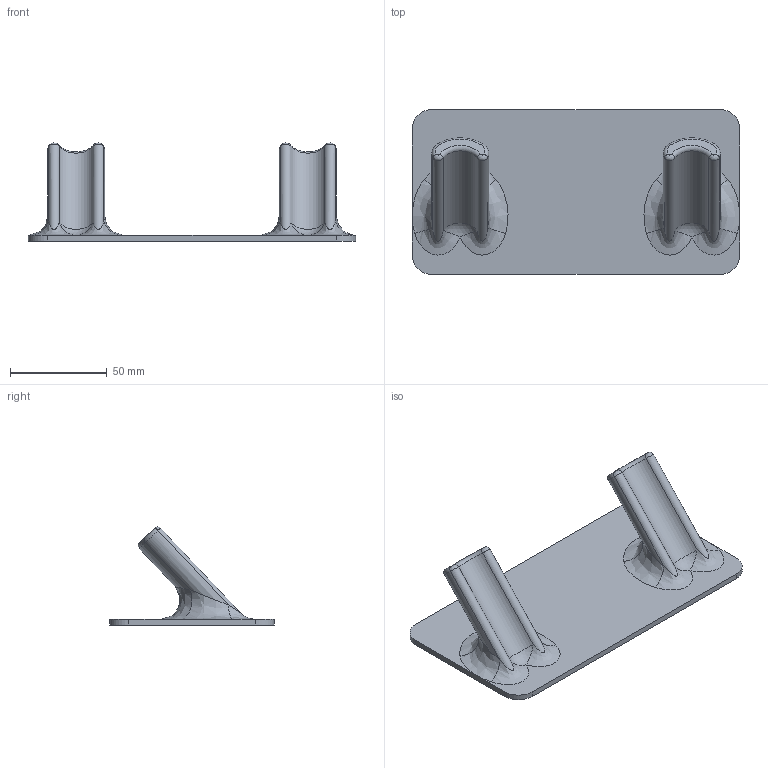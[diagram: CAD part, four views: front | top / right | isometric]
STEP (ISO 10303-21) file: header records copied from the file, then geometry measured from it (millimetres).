
FILE_DESCRIPTION(/* description */ (''),/* implementation_level */ '2;1');
FILE_NAME(/* name */ 'D:\Users\User\Documents\Inventor Projects\ViveWallMount\WallMountNoHoles.stp',/* time_stamp */ '2016-04-15T12:57:03+02:00',/* author */ ('User'),/* organization */ (''),/* preprocessor_version */ 'ST-DEVELOPER v16.1',/* originating_system */ 'Autodesk Inventor 2016',/* authorisation */ '');
FILE_SCHEMA (('AUTOMOTIVE_DESIGN { 1 0 10303 214 3 1 1 }'));
Length unit declared in the file: millimetre
Products named in the file (1): WallMountNoHoles
Bounding box: 169.6 x 85.44 x 50.92 mm (x, y, z)
Volume: 85331.2 mm3; surface area: 38368.6 mm2
Topology: 1 solids, 1 shells, 48 faces, 114 edges, 66 vertices
Faces by surface type: cylinder 16, bspline 14, torus 8, plane 8, sphere 2
Entity records: 1896 total; most frequent: CARTESIAN_POINT 771, DIRECTION 260, ORIENTED_EDGE 220, AXIS2_PLACEMENT_3D 115, EDGE_CURVE 110, VERTEX_POINT 64, CIRCLE 58, FACE_OUTER_BOUND 48
